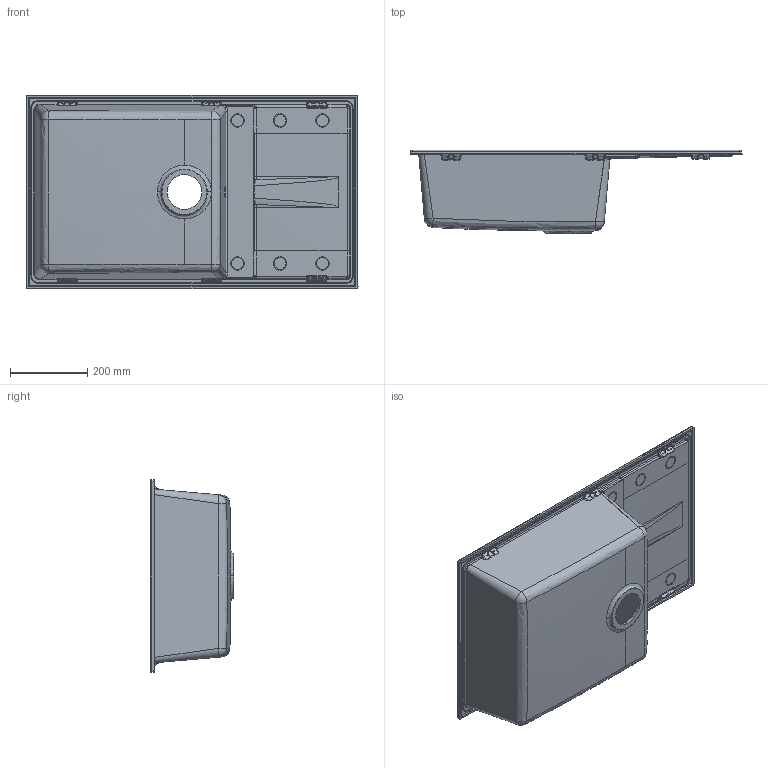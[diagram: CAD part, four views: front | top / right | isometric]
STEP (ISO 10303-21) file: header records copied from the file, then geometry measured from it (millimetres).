
FILE_DESCRIPTION (( 'STEP AP203' ), '1' );
FILE_NAME ('UNICO410.STEP', '2018-10-11T09:36:42', ( '' ), ( '' ), 'SwSTEP 2.0', 'SolidWorks 2013', '' );
FILE_SCHEMA (( 'CONFIG_CONTROL_DESIGN' ));
Products named in the file (1): UNICO410
Bounding box: 860 x 216.49 x 500 mm (x, y, z)
Volume: 5949182.8 mm3; surface area: 1488273.2 mm2
Topology: 1 solids, 1 shells, 712 faces, 1719 edges, 995 vertices
Faces by surface type: bspline 365, cylinder 241, plane 91, sphere 11, cone 4
Entity records: 62357 total; most frequent: CARTESIAN_POINT 48533, ORIENTED_EDGE 3354, DIRECTION 2220, EDGE_CURVE 1677, VERTEX_POINT 995, AXIS2_PLACEMENT_3D 895, EDGE_LOOP 744, FACE_OUTER_BOUND 712
